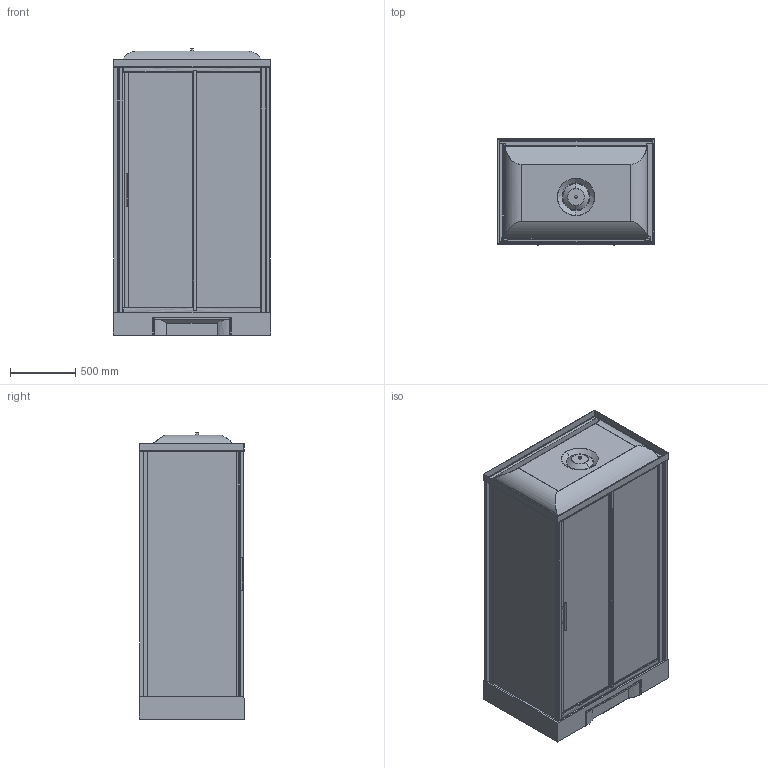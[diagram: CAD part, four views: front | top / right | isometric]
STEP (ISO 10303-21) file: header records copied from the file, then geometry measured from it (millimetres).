
FILE_DESCRIPTION(('STEP AP203'),'2;1');
FILE_NAME('NNH 2P T 19F.stp','2015-09-08T09:27:00',(''),(''),'2014.1.117','THINKDESIGN','');
FILE_SCHEMA(('CONFIG_CONTROL_DESIGN'));
Length unit declared in the file: millimetre
Products named in the file (1): top
Bounding box: 1204.04 x 808.72 x 2193.07 mm (x, y, z)
Volume: 256541277.8 mm3; surface area: 23621274.8 mm2
Topology: 37 solids, 37 shells, 788 faces, 2010 edges, 1306 vertices
Faces by surface type: bspline 397, plane 297, cylinder 94
Entity records: 74527 total; most frequent: CARTESIAN_POINT 58536, ORIENTED_EDGE 3818, DIRECTION 2198, EDGE_CURVE 1909, VERTEX_POINT 1234, VECTOR 856, LINE 856, EDGE_LOOP 801
